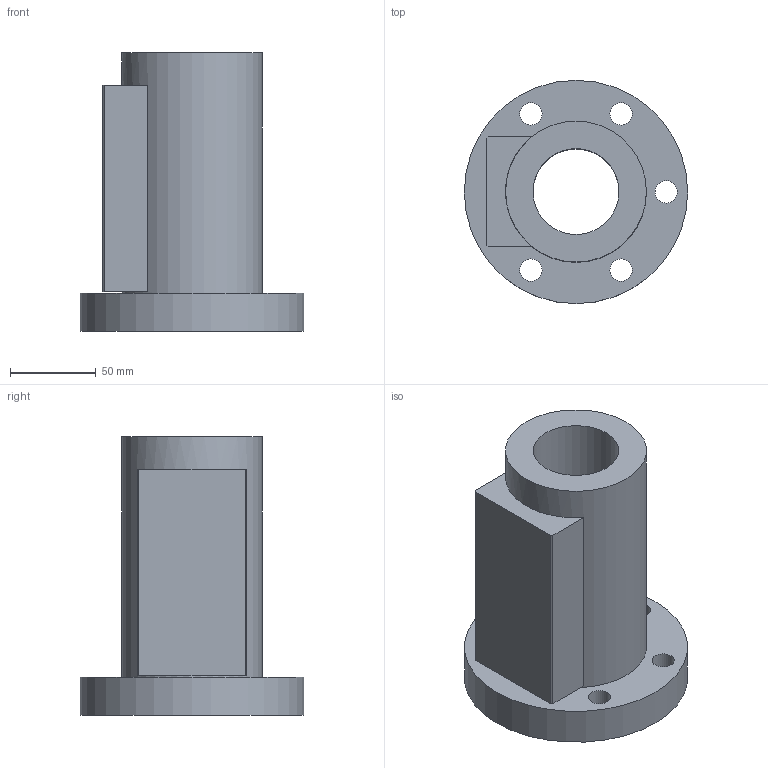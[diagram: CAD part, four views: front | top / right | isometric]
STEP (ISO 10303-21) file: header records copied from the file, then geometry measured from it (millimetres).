
FILE_DESCRIPTION(/* description */ (''),/* implementation_level */ '2;1');
FILE_NAME(/* name */ '50-50A1',/* time_stamp */ '2006-07-31T12:00:38+08:00',/* author */ (''),/* organization */ (''),/* preprocessor_version */ 'ST-DEVELOPER v9',/* originating_system */ 'UGS - NX 4.0',/* authorisation */ '');
FILE_SCHEMA (('CONFIG_CONTROL_DESIGN'));
Length unit declared in the file: millimetre
Products named in the file (1): 50-50A1
Bounding box: 130 x 130 x 162 mm (x, y, z)
Volume: 807057.7 mm3; surface area: 104771 mm2
Topology: 1 solids, 1 shells, 28 faces, 61 edges, 42 vertices
Faces by surface type: plane 15, cylinder 13
Full cylindrical faces by diameter (mm): 13 x5, 20 x5, 50 x1, 82 x1, 130 x1
Entity records: 794 total; most frequent: DIRECTION 130, CARTESIAN_POINT 111, ORIENTED_EDGE 88, EDGE_LOOP 60, AXIS2_PLACEMENT_3D 57, FACE_BOUND 45, EDGE_CURVE 44, VERTEX_POINT 38
